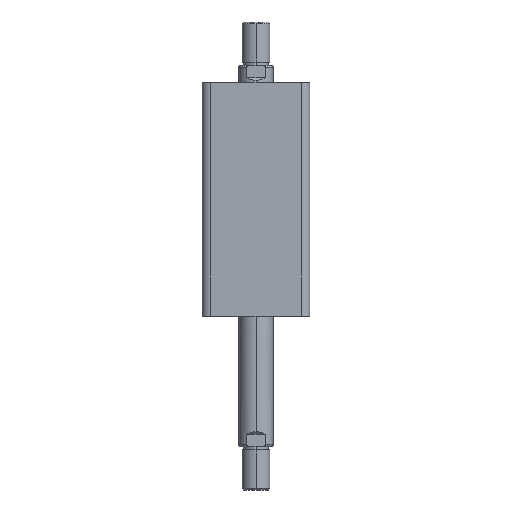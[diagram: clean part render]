
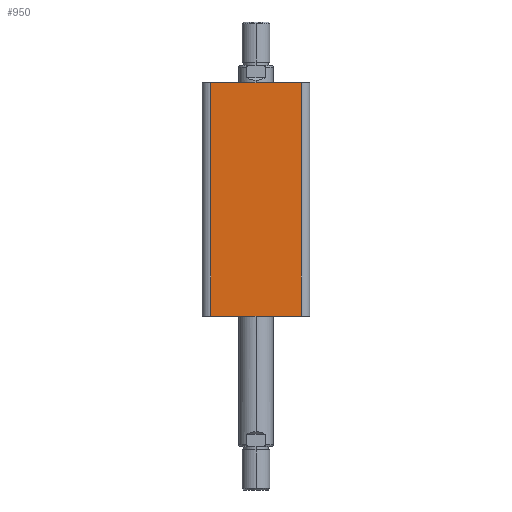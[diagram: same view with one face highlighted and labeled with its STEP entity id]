
A CAD part, left-side view. The second image highlights one B-rep face of the part: STEP entity #950.
In plain terms, the highlighted planar face has unit normal (-1, 0, 0).
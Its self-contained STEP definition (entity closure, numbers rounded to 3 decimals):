
#353 = FACE_OUTER_BOUND ( 'NONE', #2039, .T. ) ;
#470 = LINE ( 'NONE', #776, #479 ) ;
#474 = LINE ( 'NONE', #787, #477 ) ;
#477 = VECTOR ( 'NONE', #788, 1000. ) ;
#478 = LINE ( 'NONE', #790, #481 ) ;
#479 = VECTOR ( 'NONE', #789, 1000. ) ;
#480 = LINE ( 'NONE', #792, #483 ) ;
#481 = VECTOR ( 'NONE', #791, 1000. ) ;
#483 = VECTOR ( 'NONE', #793, 1000. ) ;
#776 = CARTESIAN_POINT ( 'NONE',  ( -31., -26., 134. ) ) ;
#787 = CARTESIAN_POINT ( 'NONE',  ( -31., 31., 0. ) ) ;
#788 = DIRECTION ( 'NONE',  ( 0., -1., 0. ) ) ;
#789 = DIRECTION ( 'NONE',  ( 0., 0., 1. ) ) ;
#790 = CARTESIAN_POINT ( 'NONE',  ( -31., 31., 134. ) ) ;
#791 = DIRECTION ( 'NONE',  ( 0., -1., 0. ) ) ;
#792 = CARTESIAN_POINT ( 'NONE',  ( -31., 26., 134. ) ) ;
#793 = DIRECTION ( 'NONE',  ( 0., 0., -1. ) ) ;
#950 = ADVANCED_FACE ( 'NONE', ( #353 ), #3307, .F. ) ;
#1838 = AXIS2_PLACEMENT_3D ( 'NONE', #3303, #3309, #3310 ) ;
#2039 = EDGE_LOOP ( 'NONE', ( #2600, #2601, #2602, #2603 ) ) ;
#2195 = VERTEX_POINT ( 'NONE', #3345 ) ;
#2197 = VERTEX_POINT ( 'NONE', #3347 ) ;
#2203 = VERTEX_POINT ( 'NONE', #3353 ) ;
#2206 = VERTEX_POINT ( 'NONE', #3356 ) ;
#2412 = EDGE_CURVE ( 'NONE', #2206, #2195, #474, .T. ) ;
#2413 = EDGE_CURVE ( 'NONE', #2195, #2203, #470, .T. ) ;
#2414 = EDGE_CURVE ( 'NONE', #2197, #2203, #478, .T. ) ;
#2415 = EDGE_CURVE ( 'NONE', #2197, #2206, #480, .T. ) ;
#2600 = ORIENTED_EDGE ( 'NONE', *, *, #2412, .T. ) ;
#2601 = ORIENTED_EDGE ( 'NONE', *, *, #2413, .T. ) ;
#2602 = ORIENTED_EDGE ( 'NONE', *, *, #2414, .F. ) ;
#2603 = ORIENTED_EDGE ( 'NONE', *, *, #2415, .T. ) ;
#3303 = CARTESIAN_POINT ( 'NONE',  ( -31., 31., 134. ) ) ;
#3307 = PLANE ( 'NONE',  #1838 ) ;
#3309 = DIRECTION ( 'NONE',  ( 1., 0., 0. ) ) ;
#3310 = DIRECTION ( 'NONE',  ( 0., 1., 0. ) ) ;
#3345 = CARTESIAN_POINT ( 'NONE',  ( -31., -26., 0. ) ) ;
#3347 = CARTESIAN_POINT ( 'NONE',  ( -31., 26., 134. ) ) ;
#3353 = CARTESIAN_POINT ( 'NONE',  ( -31., -26., 134. ) ) ;
#3356 = CARTESIAN_POINT ( 'NONE',  ( -31., 26., 0. ) ) ;
